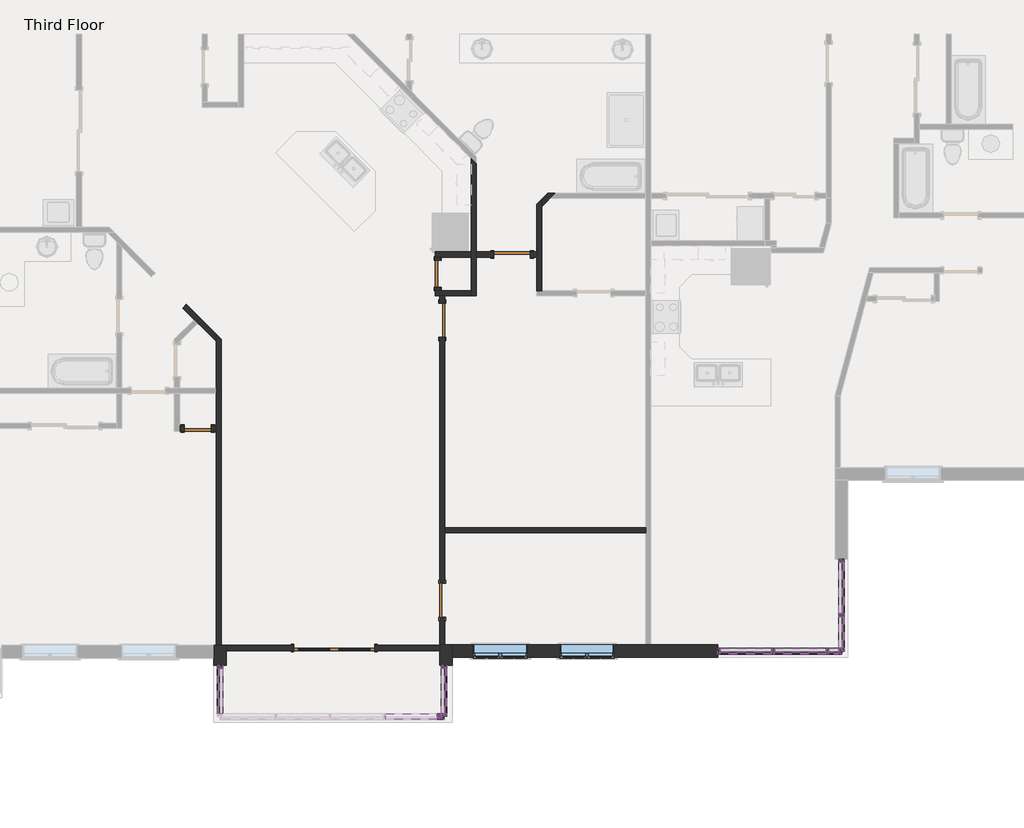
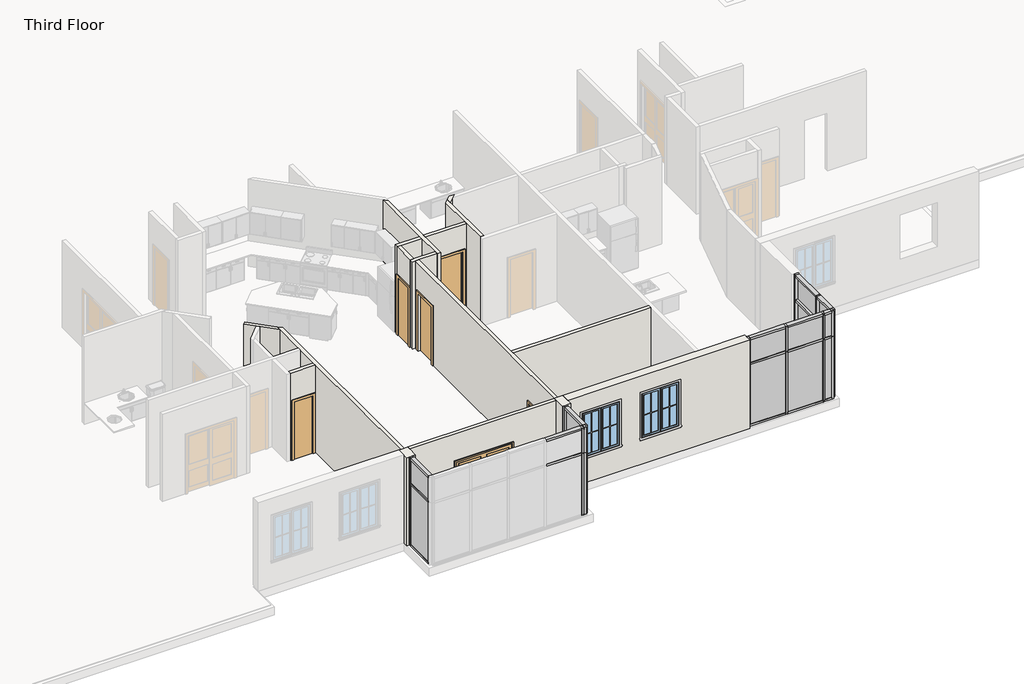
# One storey, part 4 of 17: 50 members, 16 plates, 15 walls, 6 doors, 2 windows.
"""IFC4 building model written with IfcOpenShell, lengths in millimetres."""

from ifc_helpers import new_model, si_unit, frame, origin, place, context, project, spatial, polyline, outline, extrude, faceted_brep, transform, mapped, element, save
from components import door_0a7806e9, door_e2285e44, door_f2b275c1, door_d141acb4, rectangular_mullion_rectangular_mullion_1_fa3625a1, rectangular_mullion_rectangular_mullion_1_7cbf0b94, rectangular_mullion_rectangular_mullion_1_6186cc23, rectangular_mullion_rectangular_mullion_1_049a2e78, rectangular_mullion_rectangular_mullion_1_a50b3cda, rectangular_mullion_rectangular_mullion_1_5cd4c5ac, rectangular_mullion_rectangular_mullion_1_13524bf9, rectangular_mullion_rectangular_mullion_1_a1888574, rectangular_mullion_rectangular_mullion_1_777cae27, rectangular_mullion_rectangular_mullion_1_d1eb19d3, rectangular_mullion_rectangular_mullion_1_51e130ae, rectangular_mullion_rectangular_mullion_1_daa2411d, rectangular_mullion_rectangular_mullion_1_c89d8757, rectangular_mullion_rectangular_mullion_1_6bbe7064, system_panel_glazed_0ed27d1d, system_panel_glazed_134bacdb, system_panel_glazed_53e6f9fb, system_panel_glazed_cb820e14, system_panel_glazed_7c98c5cb, system_panel_glazed_dc3c0d95, system_panel_glazed_257c6b8d, system_panel_glazed_6272dde4, system_panel_glazed_2237517c, system_panel_glazed_5f627d4c, system_panel_glazed_119c605a, system_panel_glazed_b87cf22f, window_33528cc2

model = new_model("IFC4")

# Units and contexts
model_context = context("Model", 3, world=origin())
ifc_project = project(units=[si_unit("LENGTHUNIT", "METRE", prefix="MILLI")], contexts=[model_context])

# Site, building, storey
site = spatial("IfcSite", under=ifc_project)
building = spatial("IfcBuilding", under=site)
storey = spatial("IfcBuildingStorey", under=building, Name="Third Floor", Elevation=6096.0)

# Doors
placement = place(None, origin())
door_shape = door_0a7806e9(model_context)
element("IfcDoor", 1, ObjectType="Double-Glass 1 : 72\" x 82\"", at=placement, inside=storey, context=model_context, shape_type="MappedRepresentation", body=[
    mapped(door_shape, transform((35119.623284, -18481.0379087, 6096.0), x_axis=(-1.0, 0.0, 0.0), y_axis=(0.0, -1.0, 0.0), z_axis=(0.0, 0.0, 1.0))),
])
door_2_shape = door_e2285e44(model_context)
element("IfcDoor", 2, ObjectType="Single-Flush : 24\" x 80\"", at=placement, inside=storey, context=model_context, shape_type="MappedRepresentation", body=[
    mapped(door_2_shape, transform((37444.6738013, -10083.539835, 6096.0), x_axis=(0.0, -1.0, 0.0), y_axis=(1.0, 0.0, 0.0), z_axis=(0.0, 0.0, 1.0))),
])
element("IfcDoor", 3, ObjectType="Single-Flush : 24\" x 80\"", at=placement, inside=storey, context=model_context, shape_type="MappedRepresentation", body=[
    mapped(door_2_shape, transform((32056.0053, -13556.0564679, 6096.0), x_axis=(1.0, 0.0, 0.0), y_axis=(0.0, 1.0, 0.0), z_axis=(0.0, 0.0, 1.0))),
])
door_3_shape = door_f2b275c1(model_context)
element("IfcDoor", 4, ObjectType="Single-Flush : 30\" x 80\"", at=placement, inside=storey, context=model_context, shape_type="MappedRepresentation", body=[
    mapped(door_3_shape, transform((37544.2970292, -11126.7896208, 6096.0), x_axis=(0.0, 1.0, 0.0), y_axis=(-1.0, 0.0, 0.0), z_axis=(0.0, 0.0, 1.0))),
])
element("IfcDoor", 5, ObjectType="Single-Flush : 30\" x 80\"", at=placement, inside=storey, context=model_context, shape_type="MappedRepresentation", body=[
    mapped(door_3_shape, transform((37544.2970292, -17416.6191587, 6096.0), x_axis=(0.0, -1.0, 0.0), y_axis=(1.0, 0.0, 0.0), z_axis=(0.0, 0.0, 1.0))),
])
door_4_shape = door_d141acb4(model_context)
element("IfcDoor", 6, ObjectType="Single-Flush : 32\" x 84\"", at=placement, inside=storey, context=model_context, shape_type="MappedRepresentation", body=[
    mapped(door_4_shape, transform((39111.3713345, -9649.8900492, 6096.0), x_axis=(1.0, 0.0, 0.0), y_axis=(0.0, 1.0, 0.0), z_axis=(0.0, 0.0, 1.0))),
])

# Members
rectangular_mullion_rectangular_mullion_1_shape = rectangular_mullion_rectangular_mullion_1_fa3625a1(model_context)
element("IfcMember", 7, ObjectType="Rectangular Mullion : Rectangular Mullion 1", at=placement, inside=storey, context=model_context, shape_type="MappedRepresentation", body=[
    mapped(rectangular_mullion_rectangular_mullion_1_shape, transform((44943.6345295, -18555.6618072, 9144.0), x_axis=(0.0, 0.0, 1.0), y_axis=(0.0, -1.0, 0.0), z_axis=(1.0, 0.0, 0.0))),
])
element("IfcMember", 8, ObjectType="Rectangular Mullion : Rectangular Mullion 1", at=placement, inside=storey, context=model_context, shape_type="MappedRepresentation", body=[
    mapped(rectangular_mullion_rectangular_mullion_1_shape, transform((46162.8345295, -18555.6618072, 9144.0), x_axis=(0.0, 0.0, 1.0), y_axis=(0.0, -1.0, 0.0), z_axis=(1.0, 0.0, 0.0))),
])
element("IfcMember", 9, ObjectType="Rectangular Mullion : Rectangular Mullion 1", at=placement, inside=storey, context=model_context, shape_type="MappedRepresentation", body=[
    mapped(rectangular_mullion_rectangular_mullion_1_shape, transform((37430.4620392, -20021.7015972, 9144.0), x_axis=(0.0, 0.0, 1.0), y_axis=(0.0, -1.0, 0.0), z_axis=(1.0, 0.0, 0.0))),
])
element("IfcMember", 10, ObjectType="Rectangular Mullion : Rectangular Mullion 1", at=placement, inside=storey, context=model_context, shape_type="MappedRepresentation", body=[
    mapped(rectangular_mullion_rectangular_mullion_1_shape, transform((43787.9345292, -18555.6618072, 6096.0), x_axis=(0.0, 0.0, -1.0), y_axis=(0.0, -1.0, 0.0), z_axis=(-1.0, 0.0, 0.0))),
])
element("IfcMember", 11, ObjectType="Rectangular Mullion : Rectangular Mullion 1", at=placement, inside=storey, context=model_context, shape_type="MappedRepresentation", body=[
    mapped(rectangular_mullion_rectangular_mullion_1_shape, transform((45007.1345295, -18555.6618072, 6096.0), x_axis=(0.0, 0.0, -1.0), y_axis=(0.0, -1.0, 0.0), z_axis=(-1.0, 0.0, 0.0))),
])
rectangular_mullion_rectangular_mullion_1_2_shape = rectangular_mullion_rectangular_mullion_1_7cbf0b94(model_context)
element("IfcMember", 12, ObjectType="Rectangular Mullion : Rectangular Mullion 1", at=placement, inside=storey, context=model_context, shape_type="MappedRepresentation", body=[
    mapped(rectangular_mullion_rectangular_mullion_1_2_shape, transform((44943.6345295, -18555.6618072, 8261.35), x_axis=(0.0, 0.0, 1.0), y_axis=(0.0, -1.0, 0.0), z_axis=(1.0, 0.0, 0.0))),
])
element("IfcMember", 13, ObjectType="Rectangular Mullion : Rectangular Mullion 1", at=placement, inside=storey, context=model_context, shape_type="MappedRepresentation", body=[
    mapped(rectangular_mullion_rectangular_mullion_1_2_shape, transform((46162.8345295, -18555.6618072, 8261.35), x_axis=(0.0, 0.0, 1.0), y_axis=(0.0, -1.0, 0.0), z_axis=(1.0, 0.0, 0.0))),
])
element("IfcMember", 14, ObjectType="Rectangular Mullion : Rectangular Mullion 1", at=placement, inside=storey, context=model_context, shape_type="MappedRepresentation", body=[
    mapped(rectangular_mullion_rectangular_mullion_1_2_shape, transform((37430.4620392, -20021.7015972, 8261.35), x_axis=(0.0, 0.0, 1.0), y_axis=(0.0, -1.0, 0.0), z_axis=(1.0, 0.0, 0.0))),
])
rectangular_mullion_rectangular_mullion_1_3_shape = rectangular_mullion_rectangular_mullion_1_6186cc23(model_context)
element("IfcMember", 15, ObjectType="Rectangular Mullion : Rectangular Mullion 1", at=placement, inside=storey, context=model_context, shape_type="MappedRepresentation", body=[
    mapped(rectangular_mullion_rectangular_mullion_1_3_shape, transform((44975.3845295, -18555.6618072, 6096.0), x_axis=(1.0, 0.0, 0.0), y_axis=(0.0, -1.0, 0.0), z_axis=(0.0, 0.0, -1.0))),
])
element("IfcMember", 16, ObjectType="Rectangular Mullion : Rectangular Mullion 1", at=placement, inside=storey, context=model_context, shape_type="MappedRepresentation", body=[
    mapped(rectangular_mullion_rectangular_mullion_1_3_shape, transform((46194.5845295, -18555.6618072, 6096.0), x_axis=(1.0, 0.0, 0.0), y_axis=(0.0, -1.0, 0.0), z_axis=(0.0, 0.0, -1.0))),
])
element("IfcMember", 17, ObjectType="Rectangular Mullion : Rectangular Mullion 1", at=placement, inside=storey, context=model_context, shape_type="MappedRepresentation", body=[
    mapped(rectangular_mullion_rectangular_mullion_1_3_shape, transform((37462.2120392, -20021.7015972, 6096.0), x_axis=(1.0, 0.0, 0.0), y_axis=(0.0, -1.0, 0.0), z_axis=(0.0, 0.0, -1.0))),
])
rectangular_mullion_rectangular_mullion_1_4_shape = rectangular_mullion_rectangular_mullion_1_049a2e78(model_context)
element("IfcMember", 18, ObjectType="Rectangular Mullion : Rectangular Mullion 1", at=placement, inside=storey, context=model_context, shape_type="MappedRepresentation", body=[
    mapped(rectangular_mullion_rectangular_mullion_1_4_shape, transform((44975.3845295, -18555.6618072, 8261.35), x_axis=(1.0, 0.0, 0.0), y_axis=(0.0, -1.0, 0.0), z_axis=(0.0, 0.0, -1.0))),
])
element("IfcMember", 19, ObjectType="Rectangular Mullion : Rectangular Mullion 1", at=placement, inside=storey, context=model_context, shape_type="MappedRepresentation", body=[
    mapped(rectangular_mullion_rectangular_mullion_1_4_shape, transform((46194.5845295, -18555.6618072, 8261.35), x_axis=(1.0, 0.0, 0.0), y_axis=(0.0, -1.0, 0.0), z_axis=(0.0, 0.0, -1.0))),
])
element("IfcMember", 20, ObjectType="Rectangular Mullion : Rectangular Mullion 1", at=placement, inside=storey, context=model_context, shape_type="MappedRepresentation", body=[
    mapped(rectangular_mullion_rectangular_mullion_1_4_shape, transform((37462.2120392, -20021.7015972, 8261.35), x_axis=(1.0, 0.0, 0.0), y_axis=(0.0, -1.0, 0.0), z_axis=(0.0, 0.0, -1.0))),
])
rectangular_mullion_rectangular_mullion_1_5_shape = rectangular_mullion_rectangular_mullion_1_a50b3cda(model_context)
element("IfcMember", 21, ObjectType="Rectangular Mullion : Rectangular Mullion 1", at=placement, inside=storey, context=model_context, shape_type="MappedRepresentation", body=[
    mapped(rectangular_mullion_rectangular_mullion_1_5_shape, transform((46511.3297255, -18555.6618072, 6096.0), x_axis=(1.0, 0.0, 0.0), y_axis=(0.0, -1.0, 0.0), z_axis=(0.0, 0.0, -1.0))),
])
element("IfcMember", 22, ObjectType="Rectangular Mullion : Rectangular Mullion 1", at=placement, inside=storey, context=model_context, shape_type="MappedRepresentation", body=[
    mapped(rectangular_mullion_rectangular_mullion_1_5_shape, transform((37582.8620389, -20021.7015972, 6096.0), x_axis=(1.0, 0.0, 0.0), y_axis=(0.0, -1.0, 0.0), z_axis=(0.0, 0.0, -1.0))),
])
element("IfcMember", 23, ObjectType="Rectangular Mullion : Rectangular Mullion 1", at=placement, inside=storey, context=model_context, shape_type="MappedRepresentation", body=[
    mapped(rectangular_mullion_rectangular_mullion_1_5_shape, transform((37582.8620389, -18872.3566587, 6096.0), x_axis=(0.0, 1.0, 0.0), y_axis=(1.0, 0.0, 0.0), z_axis=(0.0, 0.0, -1.0))),
])
rectangular_mullion_rectangular_mullion_1_6_shape = rectangular_mullion_rectangular_mullion_1_5cd4c5ac(model_context)
element("IfcMember", 24, ObjectType="Rectangular Mullion : Rectangular Mullion 1", at=placement, inside=storey, context=model_context, shape_type="MappedRepresentation", body=[
    mapped(rectangular_mullion_rectangular_mullion_1_6_shape, transform((46511.3297255, -18555.6618072, 8261.35), x_axis=(1.0, 0.0, 0.0), y_axis=(0.0, -1.0, 0.0), z_axis=(0.0, 0.0, -1.0))),
])
element("IfcMember", 25, ObjectType="Rectangular Mullion : Rectangular Mullion 1", at=placement, inside=storey, context=model_context, shape_type="MappedRepresentation", body=[
    mapped(rectangular_mullion_rectangular_mullion_1_6_shape, transform((37582.8620389, -20021.7015972, 8261.35), x_axis=(1.0, 0.0, 0.0), y_axis=(0.0, -1.0, 0.0), z_axis=(0.0, 0.0, -1.0))),
])
element("IfcMember", 26, ObjectType="Rectangular Mullion : Rectangular Mullion 1", at=placement, inside=storey, context=model_context, shape_type="MappedRepresentation", body=[
    mapped(rectangular_mullion_rectangular_mullion_1_6_shape, transform((37582.8620389, -18872.3566587, 8261.35), x_axis=(0.0, 1.0, 0.0), y_axis=(1.0, 0.0, 0.0), z_axis=(0.0, 0.0, -1.0))),
])
element("IfcMember", 27, ObjectType="Rectangular Mullion : Rectangular Mullion 1", at=placement, inside=storey, context=model_context, shape_type="MappedRepresentation", body=[
    mapped(rectangular_mullion_rectangular_mullion_1_6_shape, transform((43724.4345292, -18555.6618072, 9144.0), x_axis=(-1.0, 0.0, 0.0), y_axis=(0.0, -1.0, 0.0), z_axis=(0.0, 0.0, 1.0))),
])
element("IfcMember", 28, ObjectType="Rectangular Mullion : Rectangular Mullion 1", at=placement, inside=storey, context=model_context, shape_type="MappedRepresentation", body=[
    mapped(rectangular_mullion_rectangular_mullion_1_6_shape, transform((32553.6620389, -18872.3566587, 9144.0), x_axis=(0.0, 1.0, 0.0), y_axis=(-1.0, 0.0, 0.0), z_axis=(0.0, 0.0, 1.0))),
])
element("IfcMember", 29, ObjectType="Rectangular Mullion : Rectangular Mullion 1", at=placement, inside=storey, context=model_context, shape_type="MappedRepresentation", body=[
    mapped(rectangular_mullion_rectangular_mullion_1_6_shape, transform((37582.8620389, -20021.7015972, 9144.0), x_axis=(0.0, -1.0, 0.0), y_axis=(1.0, 0.0, 0.0), z_axis=(0.0, 0.0, 1.0))),
])
element("IfcMember", 30, ObjectType="Rectangular Mullion : Rectangular Mullion 1", at=placement, inside=storey, context=model_context, shape_type="MappedRepresentation", body=[
    mapped(rectangular_mullion_rectangular_mullion_1_5_shape, transform((43724.4345292, -18555.6618072, 8261.35), x_axis=(-1.0, 0.0, 0.0), y_axis=(0.0, -1.0, 0.0), z_axis=(0.0, 0.0, 1.0))),
])
element("IfcMember", 31, ObjectType="Rectangular Mullion : Rectangular Mullion 1", at=placement, inside=storey, context=model_context, shape_type="MappedRepresentation", body=[
    mapped(rectangular_mullion_rectangular_mullion_1_5_shape, transform((32553.6620389, -18872.3566587, 8261.35), x_axis=(0.0, 1.0, 0.0), y_axis=(-1.0, 0.0, 0.0), z_axis=(0.0, 0.0, 1.0))),
])
element("IfcMember", 32, ObjectType="Rectangular Mullion : Rectangular Mullion 1", at=placement, inside=storey, context=model_context, shape_type="MappedRepresentation", body=[
    mapped(rectangular_mullion_rectangular_mullion_1_5_shape, transform((37582.8620389, -20021.7015972, 8261.35), x_axis=(0.0, -1.0, 0.0), y_axis=(1.0, 0.0, 0.0), z_axis=(0.0, 0.0, 1.0))),
])
element("IfcMember", 33, ObjectType="Rectangular Mullion : Rectangular Mullion 1", at=placement, inside=storey, context=model_context, shape_type="MappedRepresentation", body=[
    mapped(rectangular_mullion_rectangular_mullion_1_shape, transform((46511.3297255, -17714.54885, 9144.0), x_axis=(0.0, 0.0, 1.0), y_axis=(-1.0, 0.0, 0.0), z_axis=(0.0, -1.0, 0.0))),
])
element("IfcMember", 34, ObjectType="Rectangular Mullion : Rectangular Mullion 1", at=placement, inside=storey, context=model_context, shape_type="MappedRepresentation", body=[
    mapped(rectangular_mullion_rectangular_mullion_1_shape, transform((46511.3297255, -16558.8488497, 6096.0), x_axis=(0.0, 0.0, -1.0), y_axis=(-1.0, 0.0, 0.0), z_axis=(0.0, 1.0, 0.0))),
])
element("IfcMember", 35, ObjectType="Rectangular Mullion : Rectangular Mullion 1", at=placement, inside=storey, context=model_context, shape_type="MappedRepresentation", body=[
    mapped(rectangular_mullion_rectangular_mullion_1_5_shape, transform((46511.3297255, -18555.6618072, 6096.0), x_axis=(0.0, -1.0, 0.0), y_axis=(-1.0, 0.0, 0.0), z_axis=(0.0, 0.0, -1.0))),
])
element("IfcMember", 36, ObjectType="Rectangular Mullion : Rectangular Mullion 1", at=placement, inside=storey, context=model_context, shape_type="MappedRepresentation", body=[
    mapped(rectangular_mullion_rectangular_mullion_1_6_shape, transform((46511.3297255, -18555.6618072, 8261.35), x_axis=(0.0, -1.0, 0.0), y_axis=(-1.0, 0.0, 0.0), z_axis=(0.0, 0.0, -1.0))),
])
element("IfcMember", 37, ObjectType="Rectangular Mullion : Rectangular Mullion 1", at=placement, inside=storey, context=model_context, shape_type="MappedRepresentation", body=[
    mapped(rectangular_mullion_rectangular_mullion_1_6_shape, transform((46511.3297255, -16495.3488497, 9144.0), x_axis=(0.0, 1.0, 0.0), y_axis=(-1.0, 0.0, 0.0), z_axis=(0.0, 0.0, 1.0))),
])
element("IfcMember", 38, ObjectType="Rectangular Mullion : Rectangular Mullion 1", at=placement, inside=storey, context=model_context, shape_type="MappedRepresentation", body=[
    mapped(rectangular_mullion_rectangular_mullion_1_5_shape, transform((46511.3297255, -16495.3488497, 8261.35), x_axis=(0.0, 1.0, 0.0), y_axis=(-1.0, 0.0, 0.0), z_axis=(0.0, 0.0, 1.0))),
])
element("IfcMember", 39, ObjectType="Rectangular Mullion : Rectangular Mullion 1", at=placement, inside=storey, context=model_context, shape_type="MappedRepresentation", body=[
    mapped(rectangular_mullion_rectangular_mullion_1_2_shape, transform((46511.3297255, -17714.54885, 8261.35), x_axis=(0.0, 0.0, 1.0), y_axis=(-1.0, 0.0, 0.0), z_axis=(0.0, -1.0, 0.0))),
])
element("IfcMember", 40, ObjectType="Rectangular Mullion : Rectangular Mullion 1", at=placement, inside=storey, context=model_context, shape_type="MappedRepresentation", body=[
    mapped(rectangular_mullion_rectangular_mullion_1_3_shape, transform((46511.3297255, -17746.29885, 6096.0), x_axis=(0.0, -1.0, 0.0), y_axis=(-1.0, 0.0, 0.0), z_axis=(0.0, 0.0, -1.0))),
])
element("IfcMember", 41, ObjectType="Rectangular Mullion : Rectangular Mullion 1", at=placement, inside=storey, context=model_context, shape_type="MappedRepresentation", body=[
    mapped(rectangular_mullion_rectangular_mullion_1_4_shape, transform((46511.3297255, -17746.29885, 8261.35), x_axis=(0.0, -1.0, 0.0), y_axis=(-1.0, 0.0, 0.0), z_axis=(0.0, 0.0, -1.0))),
])
rectangular_mullion_rectangular_mullion_1_7_shape = rectangular_mullion_rectangular_mullion_1_13524bf9(model_context)
element("IfcMember", 42, ObjectType="Rectangular Mullion : Rectangular Mullion 1", at=placement, inside=storey, context=model_context, shape_type="MappedRepresentation", body=[
    mapped(rectangular_mullion_rectangular_mullion_1_7_shape, transform((46511.3297255, -18492.1618072, 9144.0), x_axis=(0.0, 0.0, 1.0), y_axis=(-1.0, 0.0, 0.0), z_axis=(0.0, -1.0, 0.0))),
])
element("IfcMember", 43, ObjectType="Rectangular Mullion : Rectangular Mullion 1", at=placement, inside=storey, context=model_context, shape_type="MappedRepresentation", body=[
    mapped(rectangular_mullion_rectangular_mullion_1_7_shape, transform((46511.3297255, -17778.04885, 6096.0), x_axis=(0.0, 0.0, -1.0), y_axis=(-1.0, 0.0, 0.0), z_axis=(0.0, 1.0, 0.0))),
])
rectangular_mullion_rectangular_mullion_1_8_shape = rectangular_mullion_rectangular_mullion_1_a1888574(model_context)
element("IfcMember", 44, ObjectType="Rectangular Mullion : Rectangular Mullion 1", at=placement, inside=storey, context=model_context, shape_type="MappedRepresentation", body=[
    mapped(rectangular_mullion_rectangular_mullion_1_8_shape, transform((46511.3297255, -18492.1618072, 8261.35), x_axis=(0.0, 0.0, 1.0), y_axis=(-1.0, 0.0, 0.0), z_axis=(0.0, -1.0, 0.0))),
])
rectangular_mullion_rectangular_mullion_1_9_shape = rectangular_mullion_rectangular_mullion_1_777cae27(model_context)
element("IfcMember", 45, ObjectType="Rectangular Mullion : Rectangular Mullion 1", at=placement, inside=storey, context=model_context, shape_type="MappedRepresentation", body=[
    mapped(rectangular_mullion_rectangular_mullion_1_9_shape, transform((46447.8297255, -18555.6618072, 9144.0), x_axis=(0.0, 0.0, 1.0), y_axis=(0.0, -1.0, 0.0), z_axis=(1.0, 0.0, 0.0))),
])
element("IfcMember", 46, ObjectType="Rectangular Mullion : Rectangular Mullion 1", at=placement, inside=storey, context=model_context, shape_type="MappedRepresentation", body=[
    mapped(rectangular_mullion_rectangular_mullion_1_9_shape, transform((46226.3345295, -18555.6618072, 6096.0), x_axis=(0.0, 0.0, -1.0), y_axis=(0.0, -1.0, 0.0), z_axis=(-1.0, 0.0, 0.0))),
])
rectangular_mullion_rectangular_mullion_1_10_shape = rectangular_mullion_rectangular_mullion_1_d1eb19d3(model_context)
element("IfcMember", 47, ObjectType="Rectangular Mullion : Rectangular Mullion 1", at=placement, inside=storey, context=model_context, shape_type="MappedRepresentation", body=[
    mapped(rectangular_mullion_rectangular_mullion_1_10_shape, transform((46447.8297255, -18555.6618072, 8261.35), x_axis=(0.0, 0.0, 1.0), y_axis=(0.0, -1.0, 0.0), z_axis=(1.0, 0.0, 0.0))),
])
rectangular_mullion_rectangular_mullion_1_11_shape = rectangular_mullion_rectangular_mullion_1_51e130ae(model_context)
element("IfcMember", 48, ObjectType="Rectangular Mullion : Rectangular Mullion 1", at=placement, inside=storey, context=model_context, shape_type="MappedRepresentation", body=[
    mapped(rectangular_mullion_rectangular_mullion_1_11_shape, transform((32553.6620389, -18935.8566587, 6096.0), x_axis=(0.0, 0.0, -1.0), y_axis=(-1.0, 0.0, 0.0), z_axis=(0.0, 1.0, 0.0))),
])
element("IfcMember", 49, ObjectType="Rectangular Mullion : Rectangular Mullion 1", at=placement, inside=storey, context=model_context, shape_type="MappedRepresentation", body=[
    mapped(rectangular_mullion_rectangular_mullion_1_11_shape, transform((37582.8620389, -19958.2015972, 6096.0), x_axis=(0.0, 0.0, -1.0), y_axis=(1.0, 0.0, 0.0), z_axis=(0.0, -1.0, 0.0))),
])
rectangular_mullion_rectangular_mullion_1_12_shape = rectangular_mullion_rectangular_mullion_1_daa2411d(model_context)
element("IfcMember", 50, ObjectType="Rectangular Mullion : Rectangular Mullion 1", at=placement, inside=storey, context=model_context, shape_type="MappedRepresentation", body=[
    mapped(rectangular_mullion_rectangular_mullion_1_12_shape, transform((32553.6620389, -19958.2015972, 8261.35), x_axis=(0.0, 0.0, 1.0), y_axis=(-1.0, 0.0, 0.0), z_axis=(0.0, -1.0, 0.0))),
])
element("IfcMember", 51, ObjectType="Rectangular Mullion : Rectangular Mullion 1", at=placement, inside=storey, context=model_context, shape_type="MappedRepresentation", body=[
    mapped(rectangular_mullion_rectangular_mullion_1_12_shape, transform((37582.8620389, -18935.8566587, 8261.35), x_axis=(0.0, 0.0, 1.0), y_axis=(1.0, 0.0, 0.0), z_axis=(0.0, 1.0, 0.0))),
])
element("IfcMember", 52, ObjectType="Rectangular Mullion : Rectangular Mullion 1", at=placement, inside=storey, context=model_context, shape_type="MappedRepresentation", body=[
    mapped(rectangular_mullion_rectangular_mullion_1_11_shape, transform((32553.6620389, -19958.2015972, 9144.0), x_axis=(0.0, 0.0, 1.0), y_axis=(-1.0, 0.0, 0.0), z_axis=(0.0, -1.0, 0.0))),
])
element("IfcMember", 53, ObjectType="Rectangular Mullion : Rectangular Mullion 1", at=placement, inside=storey, context=model_context, shape_type="MappedRepresentation", body=[
    mapped(rectangular_mullion_rectangular_mullion_1_11_shape, transform((37582.8620389, -18935.8566587, 9144.0), x_axis=(0.0, 0.0, 1.0), y_axis=(1.0, 0.0, 0.0), z_axis=(0.0, 1.0, 0.0))),
])
rectangular_mullion_rectangular_mullion_1_13_shape = rectangular_mullion_rectangular_mullion_1_c89d8757(model_context)
element("IfcMember", 54, ObjectType="Rectangular Mullion : Rectangular Mullion 1", at=placement, inside=storey, context=model_context, shape_type="MappedRepresentation", body=[
    mapped(rectangular_mullion_rectangular_mullion_1_13_shape, transform((37519.3620389, -20021.7015972, 9144.0), x_axis=(0.0, 0.0, 1.0), y_axis=(0.0, -1.0, 0.0), z_axis=(1.0, 0.0, 0.0))),
])
element("IfcMember", 55, ObjectType="Rectangular Mullion : Rectangular Mullion 1", at=placement, inside=storey, context=model_context, shape_type="MappedRepresentation", body=[
    mapped(rectangular_mullion_rectangular_mullion_1_13_shape, transform((37493.9620392, -20021.7015972, 6096.0), x_axis=(0.0, 0.0, -1.0), y_axis=(0.0, -1.0, 0.0), z_axis=(-1.0, 0.0, 0.0))),
])
rectangular_mullion_rectangular_mullion_1_14_shape = rectangular_mullion_rectangular_mullion_1_6bbe7064(model_context)
element("IfcMember", 56, ObjectType="Rectangular Mullion : Rectangular Mullion 1", at=placement, inside=storey, context=model_context, shape_type="MappedRepresentation", body=[
    mapped(rectangular_mullion_rectangular_mullion_1_14_shape, transform((37519.3620389, -20021.7015972, 8261.35), x_axis=(0.0, 0.0, 1.0), y_axis=(0.0, -1.0, 0.0), z_axis=(1.0, 0.0, 0.0))),
])

# Plates
system_panel_glazed_shape = system_panel_glazed_0ed27d1d(model_context)
element("IfcPlate", 57, ObjectType="System Panel : Glazed", at=placement, inside=storey, context=model_context, shape_type="MappedRepresentation", body=[
    mapped(system_panel_glazed_shape, transform((44365.7845293, -18555.6618072, 6159.5), x_axis=(1.0, 0.0, 0.0), y_axis=(0.0, 1.0, 0.0), z_axis=(0.0, 0.0, 1.0))),
])
element("IfcPlate", 58, ObjectType="System Panel : Glazed", at=placement, inside=storey, context=model_context, shape_type="MappedRepresentation", body=[
    mapped(system_panel_glazed_shape, transform((45584.9845295, -18555.6618072, 6159.5), x_axis=(1.0, 0.0, 0.0), y_axis=(0.0, 1.0, 0.0), z_axis=(0.0, 0.0, 1.0))),
])
system_panel_glazed_2_shape = system_panel_glazed_134bacdb(model_context)
element("IfcPlate", 59, ObjectType="System Panel : Glazed", at=placement, inside=storey, context=model_context, shape_type="MappedRepresentation", body=[
    mapped(system_panel_glazed_2_shape, transform((44365.7845293, -18555.6618072, 8293.1), x_axis=(1.0, 0.0, 0.0), y_axis=(0.0, 1.0, 0.0), z_axis=(0.0, 0.0, 1.0))),
])
element("IfcPlate", 60, ObjectType="System Panel : Glazed", at=placement, inside=storey, context=model_context, shape_type="MappedRepresentation", body=[
    mapped(system_panel_glazed_2_shape, transform((45584.9845295, -18555.6618072, 8293.1), x_axis=(1.0, 0.0, 0.0), y_axis=(0.0, 1.0, 0.0), z_axis=(0.0, 0.0, 1.0))),
])
system_panel_glazed_3_shape = system_panel_glazed_53e6f9fb(model_context)
element("IfcPlate", 61, ObjectType="System Panel : Glazed", at=placement, inside=storey, context=model_context, shape_type="MappedRepresentation", body=[
    mapped(system_panel_glazed_3_shape, transform((46511.3297255, -17136.6988499, 6159.5), x_axis=(0.0, -1.0, 0.0), y_axis=(1.0, 0.0, 0.0), z_axis=(0.0, 0.0, 1.0))),
])
system_panel_glazed_4_shape = system_panel_glazed_cb820e14(model_context)
element("IfcPlate", 62, ObjectType="System Panel : Glazed", at=placement, inside=storey, context=model_context, shape_type="MappedRepresentation", body=[
    mapped(system_panel_glazed_4_shape, transform((46511.3297255, -17136.6988499, 8293.1), x_axis=(0.0, -1.0, 0.0), y_axis=(1.0, 0.0, 0.0), z_axis=(0.0, 0.0, 1.0))),
])
system_panel_glazed_5_shape = system_panel_glazed_7c98c5cb(model_context)
element("IfcPlate", 63, ObjectType="System Panel : Glazed", at=placement, inside=storey, context=model_context, shape_type="MappedRepresentation", body=[
    mapped(system_panel_glazed_5_shape, transform((46511.3297255, -18135.1053286, 6159.5), x_axis=(0.0, -1.0, 0.0), y_axis=(1.0, 0.0, 0.0), z_axis=(0.0, 0.0, 1.0))),
])
system_panel_glazed_6_shape = system_panel_glazed_dc3c0d95(model_context)
element("IfcPlate", 64, ObjectType="System Panel : Glazed", at=placement, inside=storey, context=model_context, shape_type="MappedRepresentation", body=[
    mapped(system_panel_glazed_6_shape, transform((46511.3297255, -18135.1053286, 8293.1), x_axis=(0.0, -1.0, 0.0), y_axis=(1.0, 0.0, 0.0), z_axis=(0.0, 0.0, 1.0))),
])
system_panel_glazed_7_shape = system_panel_glazed_257c6b8d(model_context)
element("IfcPlate", 65, ObjectType="System Panel : Glazed", at=placement, inside=storey, context=model_context, shape_type="MappedRepresentation", body=[
    mapped(system_panel_glazed_7_shape, transform((46337.0821275, -18555.6618072, 6159.5), x_axis=(1.0, 0.0, 0.0), y_axis=(0.0, 1.0, 0.0), z_axis=(0.0, 0.0, 1.0))),
])
system_panel_glazed_8_shape = system_panel_glazed_6272dde4(model_context)
element("IfcPlate", 66, ObjectType="System Panel : Glazed", at=placement, inside=storey, context=model_context, shape_type="MappedRepresentation", body=[
    mapped(system_panel_glazed_8_shape, transform((46337.0821275, -18555.6618072, 8293.1), x_axis=(1.0, 0.0, 0.0), y_axis=(0.0, 1.0, 0.0), z_axis=(0.0, 0.0, 1.0))),
])
system_panel_glazed_9_shape = system_panel_glazed_2237517c(model_context)
element("IfcPlate", 67, ObjectType="System Panel : Glazed", at=placement, inside=storey, context=model_context, shape_type="MappedRepresentation", body=[
    mapped(system_panel_glazed_9_shape, transform((32553.6620389, -19447.029128, 6159.5), x_axis=(0.0, -1.0, 0.0), y_axis=(1.0, 0.0, 0.0), z_axis=(0.0, 0.0, 1.0))),
])
element("IfcPlate", 68, ObjectType="System Panel : Glazed", at=placement, inside=storey, context=model_context, shape_type="MappedRepresentation", body=[
    mapped(system_panel_glazed_9_shape, transform((37582.8620389, -19447.029128, 6159.5), x_axis=(0.0, 1.0, 0.0), y_axis=(-1.0, 0.0, 0.0), z_axis=(0.0, 0.0, 1.0))),
])
system_panel_glazed_10_shape = system_panel_glazed_5f627d4c(model_context)
element("IfcPlate", 69, ObjectType="System Panel : Glazed", at=placement, inside=storey, context=model_context, shape_type="MappedRepresentation", body=[
    mapped(system_panel_glazed_10_shape, transform((32553.6620389, -19447.029128, 8293.1), x_axis=(0.0, -1.0, 0.0), y_axis=(1.0, 0.0, 0.0), z_axis=(0.0, 0.0, 1.0))),
])
element("IfcPlate", 70, ObjectType="System Panel : Glazed", at=placement, inside=storey, context=model_context, shape_type="MappedRepresentation", body=[
    mapped(system_panel_glazed_10_shape, transform((37582.8620389, -19447.029128, 8293.1), x_axis=(0.0, 1.0, 0.0), y_axis=(-1.0, 0.0, 0.0), z_axis=(0.0, 0.0, 1.0))),
])
system_panel_glazed_11_shape = system_panel_glazed_119c605a(model_context)
element("IfcPlate", 71, ObjectType="System Panel : Glazed", at=placement, inside=storey, context=model_context, shape_type="MappedRepresentation", body=[
    mapped(system_panel_glazed_11_shape, transform((37506.662039, -20021.7015972, 6159.5), x_axis=(1.0, 0.0, 0.0), y_axis=(0.0, 1.0, 0.0), z_axis=(0.0, 0.0, 1.0))),
])
system_panel_glazed_12_shape = system_panel_glazed_b87cf22f(model_context)
element("IfcPlate", 72, ObjectType="System Panel : Glazed", at=placement, inside=storey, context=model_context, shape_type="MappedRepresentation", body=[
    mapped(system_panel_glazed_12_shape, transform((37506.662039, -20021.7015972, 8293.1), x_axis=(1.0, 0.0, 0.0), y_axis=(0.0, 1.0, 0.0), z_axis=(0.0, 0.0, 1.0))),
])

# Walls
element("IfcWall", 73, ObjectType="Exterior - Brick on Wood Stud", at=placement, inside=storey, context=model_context, shape_type="Brep", body=[
    faceted_brep([(32412.3745389, -18426.2691587, 6096.0), (32412.3745389, -18708.8441587, 6096.0), (32412.3745389, -18872.3566587, 6096.0), (32412.3745389, -18872.3566587, 9144.0), (32412.3745389, -18708.8441587, 9144.0), (32412.3745389, -18426.2691587, 9144.0), (32694.9495389, -18426.2691587, 6096.0), (32694.9495389, -18426.2691587, 9144.0), (32694.9495389, -18540.5691587, 9144.0), (32694.9495389, -18872.3566587, 9144.0), (32694.9495389, -18872.3566587, 6096.0), (32694.9495389, -18540.5691587, 6096.0), (32465.5565643, -18426.2691587, 6096.0), (32579.8565643, -18426.2691587, 6096.0), (32579.8565643, -18426.2691587, 9144.0), (32465.5565643, -18426.2691587, 9144.0)], [[[0, 1, 2, 3, 4, 5]], [[6, 7, 8, 9, 10, 11]], [[2, 1, 0, 12, 13, 6, 11, 10]], [[3, 2, 10, 9]], [[5, 4, 3, 9, 8, 7, 14, 15]], [[0, 5, 15, 14, 7, 6, 13, 12]]]),
])
element("IfcWall", 74, ObjectType="Exterior - Brick on Wood Stud", at=placement, inside=storey, context=model_context, shape_type="Brep", body=[
    faceted_brep([(37769.7220292, -18872.3566587, 6096.0), (37769.7220292, -18696.9493072, 6096.0), (37769.7220292, -18414.3743072, 6096.0), (37769.7220292, -18414.3743072, 9144.0), (37769.7220292, -18696.9493072, 9144.0), (37769.7220292, -18872.3566587, 9144.0), (37487.1470292, -18872.3566587, 6096.0), (37487.1470292, -18872.3566587, 9144.0), (37487.1470292, -18540.5691587, 9144.0), (37487.1470292, -18426.2691587, 9144.0), (37487.1470292, -18414.3743072, 9144.0), (37487.1470292, -18414.3743072, 6096.0), (37487.1470292, -18426.2691587, 6096.0), (37487.1470292, -18540.5691587, 6096.0)], [[[0, 1, 2, 3, 4, 5]], [[6, 7, 8, 9, 10, 11, 12, 13]], [[2, 1, 0, 6, 13, 12, 11]], [[5, 4, 3, 10, 9, 8, 7]], [[0, 5, 7, 6]], [[3, 2, 11, 10]]]),
])
element("IfcWall", 75, ObjectType="Exterior - Brick on Wood Stud", at=placement, inside=storey, context=model_context, shape_type="Brep", body=[
    faceted_brep([(37769.7220292, -18696.9493072, 6096.0), (43724.4345292, -18696.9493072, 6096.0), (43724.4345292, -18696.9493072, 9144.0), (37769.7220292, -18696.9493072, 9144.0), (38238.0345292, -18696.9493072, 8534.4), (39457.2345292, -18696.9493072, 8534.4), (39457.2345292, -18696.9493072, 7010.4), (38238.0345292, -18696.9493072, 7010.4), (40185.8970292, -18696.9493072, 8534.4), (41405.0970292, -18696.9493072, 8534.4), (41405.0970292, -18696.9493072, 7010.4), (40185.8970292, -18696.9493072, 7010.4), (37769.7220292, -18414.3743072, 6096.0), (37769.7220292, -18414.3743072, 9144.0), (42109.9470292, -18414.3743072, 9144.0), (42224.2470292, -18414.3743072, 9144.0), (43724.4345292, -18414.3743072, 9144.0), (43724.4345292, -18414.3743072, 6096.0), (42224.2470292, -18414.3743072, 6096.0), (42109.9470292, -18414.3743072, 6096.0), (38238.0345292, -18414.3743072, 8534.4), (38238.0345292, -18414.3743072, 7010.4), (39457.2345292, -18414.3743072, 7010.4), (39457.2345292, -18414.3743072, 8534.4), (40185.8970292, -18414.3743072, 8534.4), (40185.8970292, -18414.3743072, 7010.4), (41405.0970292, -18414.3743072, 7010.4), (41405.0970292, -18414.3743072, 8534.4)], [[[0, 1, 2, 3], [4, 5, 6, 7], [8, 9, 10, 11]], [[12, 13, 14, 15, 16, 17, 18, 19], [20, 21, 22, 23], [24, 25, 26, 27]], [[1, 0, 12, 19, 18, 17]], [[2, 1, 17, 16]], [[3, 2, 16, 15, 14, 13]], [[21, 20, 4, 7]], [[22, 21, 7, 6]], [[23, 22, 6, 5]], [[20, 23, 5, 4]], [[25, 24, 8, 11]], [[26, 25, 11, 10]], [[27, 26, 10, 9]], [[24, 27, 9, 8]], [[0, 3, 13, 12]]]),
])
element("IfcWall", 76, ObjectType="Interior - 4 1/2\" Partition", at=placement, inside=storey, context=model_context, shape_type="Brep", body=[
    faceted_brep([(32465.5565643, -11438.5770572, 6096.0), (32465.5565643, -11600.2216674, 6096.0), (32465.5565643, -12650.0236347, 6096.0), (32465.5565643, -12764.3236347, 6096.0), (32465.5565643, -13498.9064679, 6096.0), (32465.5565643, -13613.2064679, 6096.0), (32465.5565643, -18426.2691587, 6096.0), (32465.5565643, -18426.2691587, 9144.0), (32465.5565643, -13613.2064679, 9144.0), (32465.5565643, -13498.9064679, 9144.0), (32465.5565643, -12764.3236347, 9144.0), (32465.5565643, -12650.0236347, 9144.0), (32465.5565643, -11600.2216674, 9144.0), (32465.5565643, -11438.5770572, 9144.0), (32579.8565643, -11552.8770572, 6096.0), (32579.8565643, -11552.8770572, 9144.0), (32579.8565643, -18426.2691587, 9144.0), (32579.8565643, -18426.2691587, 6096.0)], [[[0, 1, 2, 3, 4, 5, 6, 7, 8, 9, 10, 11, 12, 13]], [[14, 15, 16, 17]], [[6, 5, 4, 3, 2, 1, 0, 14, 17]], [[13, 12, 11, 10, 9, 8, 7, 16, 15]], [[0, 13, 15, 14]], [[7, 6, 17, 16]]]),
])
element("IfcWall", 77, ObjectType="Interior - 4 1/2\" Partition", at=placement, inside=storey, context=model_context, shape_type="SweptSolid", body=[
    extrude(outline(polyline([(8128.0, 32360.8053), (6096.0, 32360.8053), (6096.0, 32465.5565643), (9144.0, 32465.5565643), (9144.0, 31646.4540357), (6096.0, 31646.4540357), (6096.0, 31751.2053), (8128.0, 31751.2053), (8128.0, 32360.8053)])), frame((0.0, -13613.2064679, 0.0), z_axis=(0.0, 1.0, 0.0), x_axis=(0.0, 0.0, 1.0)), (0.0, 0.0, 1.0), 114.3),
])
element("IfcWall", 78, ObjectType="Interior - 4 1/2\" Partition", at=placement, inside=storey, context=model_context, shape_type="SweptSolid", body=[
    extrude(outline(polyline([(6096.0, 32694.9495389), (6096.0, 34205.223284), (8178.8, 34205.223284), (8178.8, 36034.023284), (6096.0, 36034.023284), (6096.0, 37487.1470292), (9144.0, 37487.1470292), (9144.0, 32694.9495389), (6096.0, 32694.9495389)])), frame((0.0, -18540.5691587, 0.0), z_axis=(0.0, 1.0, 0.0), x_axis=(0.0, 0.0, 1.0)), (0.0, 0.0, 1.0), 114.3),
])
element("IfcWall", 79, ObjectType="Interior - 4 1/2\" Partition", at=placement, inside=storey, context=model_context, shape_type="SweptSolid", body=[
    extrude(outline(polyline([(37601.4470292, -15784.9064679), (42109.9470292, -15784.9064679), (42109.9470292, -15899.2064679), (37601.4470292, -15899.2064679), (37601.4470292, -15784.9064679)])), frame((0.0, 0.0, 6096.0), z_axis=(0.0, 0.0, 1.0), x_axis=(1.0, 0.0, 0.0)), (0.0, 0.0, 1.0), 3048.0),
])
element("IfcWall", 80, ObjectType="Interior - 4 1/2\" Partition", at=placement, inside=storey, context=model_context, shape_type="Brep", body=[
    faceted_brep([(37487.1470292, -17797.6191587, 8128.0), (37487.1470292, -17797.6191587, 6096.0), (37487.1470292, -18426.2691587, 6096.0), (37487.1470292, -18426.2691587, 9144.0), (37487.1470292, -10574.3396208, 9144.0), (37487.1470292, -10574.3396208, 6096.0), (37487.1470292, -10745.7896208, 6096.0), (37487.1470292, -10745.7896208, 8128.0), (37487.1470292, -11507.7896208, 8128.0), (37487.1470292, -11507.7896208, 6096.0), (37487.1470292, -17035.6191587, 6096.0), (37487.1470292, -17035.6191587, 8128.0), (37601.4470292, -18426.2691587, 6096.0), (37601.4470292, -17797.6191587, 6096.0), (37601.4470292, -17797.6191587, 8128.0), (37601.4470292, -17035.6191587, 8128.0), (37601.4470292, -17035.6191587, 6096.0), (37601.4470292, -15899.2064679, 6096.0), (37601.4470292, -15784.9064679, 6096.0), (37601.4470292, -11507.7896208, 6096.0), (37601.4470292, -11507.7896208, 8128.0), (37601.4470292, -10745.7896208, 8128.0), (37601.4470292, -10745.7896208, 6096.0), (37601.4470292, -10574.3396208, 6096.0), (37601.4470292, -10574.3396208, 9144.0), (37601.4470292, -15784.9064679, 9144.0), (37601.4470292, -15899.2064679, 9144.0), (37601.4470292, -18426.2691587, 9144.0)], [[[0, 1, 2, 3, 4, 5, 6, 7, 8, 9, 10, 11]], [[12, 13, 14, 15, 16, 17, 18, 19, 20, 21, 22, 23, 24, 25, 26, 27]], [[23, 22, 6, 5]], [[10, 9, 19, 18, 17, 16]], [[2, 1, 13, 12]], [[4, 3, 27, 26, 25, 24]], [[7, 6, 22, 21]], [[8, 7, 21, 20]], [[9, 8, 20, 19]], [[14, 13, 1, 0]], [[15, 14, 0, 11]], [[16, 15, 11, 10]], [[5, 4, 24, 23]], [[3, 2, 12, 27]]]),
])
element("IfcWall", 81, ObjectType="Interior - 4 1/2\" Partition", at=placement, inside=storey, context=model_context, shape_type="Brep", body=[
    faceted_brep([(38310.9505062, -10574.3396208, 6096.0), (38310.9505062, -9707.0400492, 6096.0), (38310.9505062, -9592.7400492, 6096.0), (38310.9505062, -7612.7771359, 6096.0), (38310.9505062, -7612.7771359, 9144.0), (38310.9505062, -9592.7400492, 9144.0), (38310.9505062, -9707.0400492, 9144.0), (38310.9505062, -10574.3396208, 9144.0), (38196.6505062, -10574.3396208, 6096.0), (38196.6505062, -10574.3396208, 9144.0), (38196.6505062, -10460.0396208, 9144.0), (38196.6505062, -9707.0400492, 9144.0), (38196.6505062, -9592.7400492, 9144.0), (38196.6505062, -7498.4771359, 9144.0), (38196.6505062, -7498.4771359, 6096.0), (38196.6505062, -9592.7400492, 6096.0), (38196.6505062, -9707.0400492, 6096.0), (38196.6505062, -10460.0396208, 6096.0)], [[[0, 1, 2, 3, 4, 5, 6, 7]], [[8, 9, 10, 11, 12, 13, 14, 15, 16, 17]], [[3, 2, 1, 0, 8, 17, 16, 15, 14]], [[7, 6, 5, 4, 13, 12, 11, 10, 9]], [[0, 7, 9, 8]], [[4, 3, 14, 13]]]),
])
element("IfcWall", 82, ObjectType="Interior - 4 1/2\" Partition", at=placement, inside=storey, context=model_context, shape_type="Brep", body=[
    faceted_brep([(37387.5238013, -10574.3396208, 6096.0), (37487.1470292, -10574.3396208, 6096.0), (37601.4470292, -10574.3396208, 6096.0), (38196.6505062, -10574.3396208, 6096.0), (38196.6505062, -10574.3396208, 9144.0), (37601.4470292, -10574.3396208, 9144.0), (37487.1470292, -10574.3396208, 9144.0), (37387.5238013, -10574.3396208, 9144.0), (37387.5238013, -10460.0396208, 6096.0), (37387.5238013, -10460.0396208, 9144.0), (37501.8238013, -10460.0396208, 9144.0), (38196.6505062, -10460.0396208, 9144.0), (38196.6505062, -10460.0396208, 6096.0), (37501.8238013, -10460.0396208, 6096.0)], [[[0, 1, 2, 3, 4, 5, 6, 7]], [[8, 9, 10, 11, 12, 13]], [[3, 2, 1, 0, 8, 13, 12]], [[7, 6, 5, 4, 11, 10, 9]], [[0, 7, 9, 8]], [[4, 3, 12, 11]]]),
])
element("IfcWall", 83, ObjectType="Interior - 4 1/2\" Partition", at=placement, inside=storey, context=model_context, shape_type="Brep", body=[
    faceted_brep([(39517.7713345, -9592.7400492, 6096.0), (39517.7713345, -9592.7400492, 8229.6), (38704.9713345, -9592.7400492, 8229.6), (38704.9713345, -9592.7400492, 6096.0), (38310.9505062, -9592.7400492, 6096.0), (38310.9505062, -9592.7400492, 9144.0), (39663.8213345, -9592.7400492, 9144.0), (39663.8213345, -9592.7400492, 6096.0), (39517.7713345, -9707.0400492, 8229.6), (39517.7713345, -9707.0400492, 6096.0), (39663.8213345, -9707.0400492, 6096.0), (39663.8213345, -9707.0400492, 9144.0), (38310.9505062, -9707.0400492, 9144.0), (38310.9505062, -9707.0400492, 6096.0), (38704.9713345, -9707.0400492, 6096.0), (38704.9713345, -9707.0400492, 8229.6)], [[[0, 1, 2, 3, 4, 5, 6, 7]], [[8, 9, 10, 11, 12, 13, 14, 15]], [[9, 0, 7, 10]], [[3, 14, 13, 4]], [[11, 6, 5, 12]], [[1, 0, 9, 8]], [[2, 1, 8, 15]], [[3, 2, 15, 14]], [[7, 6, 11, 10]], [[5, 4, 13, 12]]]),
    faceted_brep([(37387.5238013, -9592.7400492, 6096.0), (37387.5238013, -9592.7400492, 9144.0), (38196.6505062, -9592.7400492, 9144.0), (38196.6505062, -9592.7400492, 6096.0), (37387.5238013, -9707.0400492, 9144.0), (37387.5238013, -9707.0400492, 6096.0), (37501.8238013, -9707.0400492, 6096.0), (38196.6505062, -9707.0400492, 6096.0), (38196.6505062, -9707.0400492, 9144.0), (37501.8238013, -9707.0400492, 9144.0)], [[[0, 1, 2, 3]], [[4, 5, 6, 7, 8, 9]], [[5, 0, 3, 7, 6]], [[1, 4, 9, 8, 2]], [[1, 0, 5, 4]], [[3, 2, 8, 7]]]),
])
element("IfcWall", 84, ObjectType="Interior - 4 1/2\" Partition", at=placement, inside=storey, context=model_context, shape_type="SweptSolid", body=[
    extrude(outline(polyline([(-10388.339835, 8128.0), (-10388.339835, 6096.0), (-10460.0396208, 6096.0), (-10460.0396208, 9144.0), (-9707.0400492, 9144.0), (-9707.0400492, 6096.0), (-9778.739835, 6096.0), (-9778.739835, 8128.0), (-10388.339835, 8128.0)])), frame((37387.5238013, 0.0, 0.0), z_axis=(1.0, 0.0, 0.0), x_axis=(0.0, 1.0, 0.0)), (0.0, 0.0, 1.0), 114.3),
])
element("IfcWall", 85, ObjectType="Interior - 4 1/2\" Partition", at=placement, inside=storey, context=model_context, shape_type="Brep", body=[
    faceted_brep([(39778.1213345, -10460.0396208, 6096.0), (39778.1213345, -8574.419141, 6096.0), (39778.1213345, -8412.7745308, 6096.0), (39778.1213345, -8412.7745308, 9144.0), (39778.1213345, -8574.419141, 9144.0), (39778.1213345, -10460.0396208, 9144.0), (39663.8213345, -10460.0396208, 6096.0), (39663.8213345, -10460.0396208, 9144.0), (39663.8213345, -9707.0400492, 9144.0), (39663.8213345, -9592.7400492, 9144.0), (39663.8213345, -8527.0745308, 9144.0), (39663.8213345, -8527.0745308, 6096.0), (39663.8213345, -9592.7400492, 6096.0), (39663.8213345, -9707.0400492, 6096.0)], [[[0, 1, 2, 3, 4, 5]], [[6, 7, 8, 9, 10, 11, 12, 13]], [[2, 1, 0, 6, 13, 12, 11]], [[5, 4, 3, 10, 9, 8, 7]], [[3, 2, 11, 10]], [[0, 5, 7, 6]]]),
])
element("IfcWall", 86, ObjectType="Interior - 4 1/2\" Partition", at=placement, inside=storey, context=model_context, shape_type="Brep", body=[
    faceted_brep([(39778.1213345, -8574.419141, 6096.0), (39960.1697865, -8392.370689, 6096.0), (40074.4697865, -8278.070689, 6096.0), (40074.4697865, -8278.070689, 9144.0), (39960.1697865, -8392.370689, 9144.0), (39778.1213345, -8574.419141, 9144.0), (39778.1213345, -8412.7745308, 6096.0), (39778.1213345, -8412.7745308, 9144.0), (39912.8251764, -8278.070689, 9144.0), (39912.8251764, -8278.070689, 6096.0)], [[[0, 1, 2, 3, 4, 5]], [[6, 7, 8, 9]], [[2, 1, 0, 6, 9]], [[5, 4, 3, 8, 7]], [[3, 2, 9, 8]], [[0, 5, 7, 6]]]),
])
element("IfcWall", 87, ObjectType="Interior - 4 1/2\" Partition", at=placement, inside=storey, context=model_context, shape_type="Brep", body=[
    faceted_brep([(31717.0040848, -10851.6691879, 6096.0), (31975.277942, -11109.9430451, 6096.0), (32056.1002471, -11190.7653502, 6096.0), (32465.5565643, -11600.2216674, 6096.0), (32465.5565643, -11600.2216674, 9144.0), (32056.1002471, -11190.7653502, 9144.0), (31975.277942, -11109.9430451, 9144.0), (31717.0040848, -10851.6691879, 9144.0), (31797.8263899, -10770.8468828, 6096.0), (31797.8263899, -10770.8468828, 9144.0), (32465.5565643, -11438.5770572, 9144.0), (32465.5565643, -11438.5770572, 6096.0)], [[[0, 1, 2, 3, 4, 5, 6, 7]], [[8, 9, 10, 11]], [[3, 2, 1, 0, 8, 11]], [[7, 6, 5, 4, 10, 9]], [[0, 7, 9, 8]], [[4, 3, 11, 10]]]),
])

# Windows
window_shape = window_33528cc2(model_context)
element("IfcWindow", 88, ObjectType="Window-Casement-Double : 48\" x 60\"", at=placement, inside=storey, context=model_context, shape_type="MappedRepresentation", body=[
    mapped(window_shape, transform((38847.6345292, -18555.6618072, 6096.0), x_axis=(-1.0, 0.0, 0.0), y_axis=(0.0, -1.0, 0.0), z_axis=(0.0, 0.0, 1.0))),
])
element("IfcWindow", 89, ObjectType="Window-Casement-Double : 48\" x 60\"", at=placement, inside=storey, context=model_context, shape_type="MappedRepresentation", body=[
    mapped(window_shape, transform((40795.4970292, -18555.6618072, 6096.0), x_axis=(-1.0, 0.0, 0.0), y_axis=(0.0, -1.0, 0.0), z_axis=(0.0, 0.0, 1.0))),
])

save(model, "model.ifc")
